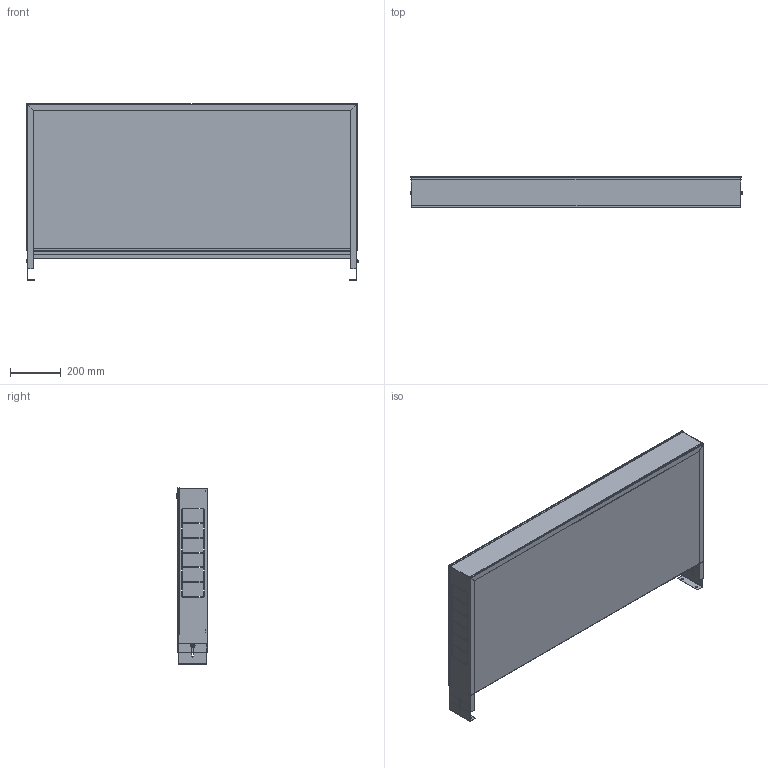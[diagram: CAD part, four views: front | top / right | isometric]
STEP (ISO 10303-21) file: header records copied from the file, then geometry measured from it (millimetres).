
FILE_DESCRIPTION(('TFLEX Exchange Step'),'2;1');
FILE_NAME('Manifold cabinet VTc.541.0.07 Valtec.stp', '2023-10-11T13:55:45+03:00',('denis'),('Unknown organisation'),'TFLEX Exchange 2023.0','T-FLEX CAD','Unknown authorisation');
FILE_SCHEMA( ('AUTOMOTIVE_DESIGN { 1 0 10303 214 1 1 1 1 }') );
Length unit declared in the file: millimetre
Products named in the file (1): Nodes
Bounding box: 1309 x 124.9 x 695 mm (x, y, z)
Volume: 1675664.5 mm3; surface area: 4085532.4 mm2
Topology: 9 solids, 10 shells, 504 faces, 1335 edges, 859 vertices
Faces by surface type: plane 372, cylinder 87, cone 31, bspline 12, torus 2
Full cylindrical faces by diameter (mm): 6 x4, 6.4 x2, 7 x2, 10 x5, 12 x1, 16 x1, 18 x2, 20 x2
Entity records: 18079 total; most frequent: CARTESIAN_POINT 5474, ORIENTED_EDGE 2670, DIRECTION 2391, EDGE_CURVE 1335, VECTOR 1009, LINE 1009, VERTEX_POINT 859, AXIS2_PLACEMENT_3D 691
